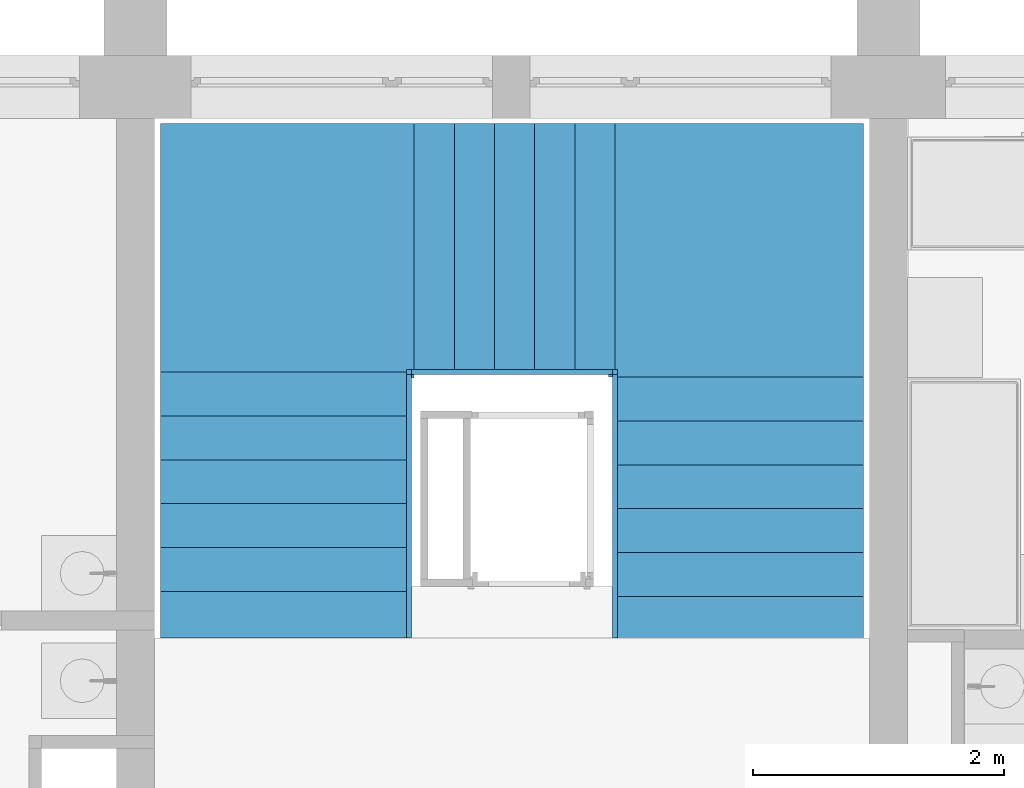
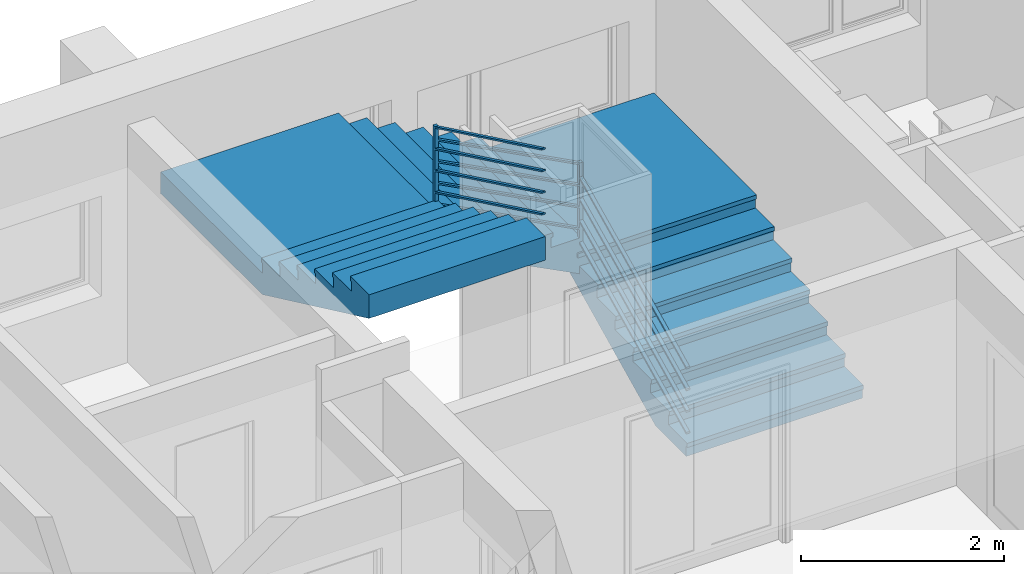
# One storey, part 26 of 165: 1 stair.
"""IFC2X3 building model written with IfcOpenShell, lengths in millimetres."""

import ifcopenshell
import ifcopenshell.guid

model = None  # the IFC model being written
_history = None  # IfcOwnerHistory: only IFC2X3 demands one
_inside = {}  # id of a spatial element -> (the spatial element, [elements in it])
_under = {}  # id of a project, library or spatial element -> (it, [spatial elements below it])
_declared = {}  # id of a project -> (the project, [libraries it declares])
_typed = {}  # id of a type object -> (the type object, [elements of that type])
_made_of = {}  # id of a material, layer set ... -> (it, [elements and type objects made of it])


def new_model(schema):
    """Start an empty IFC model of exactly this schema.

    Asked for "IFC4X3", IfcOpenShell would pick the latest addendum, in which some entities
    have other attributes; the version numbers below select the first issue.
    IFC2X3 requires an IfcOwnerHistory on every rooted entity: one is made here for all.
    """
    global model, _history
    if schema == "IFC4X3":
        model = ifcopenshell.file(schema_version=(4, 3, 0, 0))
    else:
        model = ifcopenshell.file(schema=schema)
    _inside.clear()
    _under.clear()
    _declared.clear()
    _typed.clear()
    _made_of.clear()
    _history = None
    if model.schema == "IFC2X3":
        org = make("IfcOrganization", Name="unknown")
        user = make(
            "IfcPersonAndOrganization",
            ThePerson=make("IfcPerson", FamilyName="unknown"),
            TheOrganization=org,
        )
        app = make(
            "IfcApplication",
            ApplicationDeveloper=org,
            Version="unknown",
            ApplicationFullName="unknown",
            ApplicationIdentifier="unknown",
        )
        _history = make(
            "IfcOwnerHistory",
            OwningUser=user,
            OwningApplication=app,
            ChangeAction="ADDED",
            CreationDate=0,
        )
    return model


def make(cls, **values):
    """One entity of the class cls with the attributes given. An attribute that is None is left unset."""
    return model.create_entity(
        cls, **{name: value for name, value in values.items() if value is not None}
    )


def entity(cls, *values):
    """Any entity or typed value of the class cls, its attributes in the order of the schema. None: left unset."""
    e = model.create_entity(cls)
    for i, value in enumerate(values):
        if value is not None:
            e[i] = value
    return e


def rooted(cls, **values):
    """An entity with a GlobalId (a new one), such as an element, a storey or a relation."""
    return make(cls, GlobalId=ifcopenshell.guid.new(), OwnerHistory=_history, **values)


def si_unit(unit_type, name, prefix=None):
    """IfcSIUnit, for example si_unit("LENGTHUNIT", "METRE", prefix="MILLI")."""
    return make("IfcSIUnit", UnitType=unit_type, Prefix=prefix, Name=name)


def converted_unit(unit_type, name, factor, base, dimensions=None, offset=None):
    """IfcConversionBasedUnit, such as the inch: factor (a typed value) times the base unit."""
    return make(
        "IfcConversionBasedUnit"
        if offset is None
        else "IfcConversionBasedUnitWithOffset",
        ConversionOffset=offset,
        Dimensions=None
        if dimensions is None
        else entity("IfcDimensionalExponents", *dimensions),
        UnitType=unit_type,
        Name=name,
        ConversionFactor=make(
            "IfcMeasureWithUnit", ValueComponent=factor, UnitComponent=base
        ),
    )


def money_unit(currency):
    """IfcMonetaryUnit."""
    return make("IfcMonetaryUnit", Currency=currency)


def assignment(units):
    """IfcUnitAssignment: the units of a project."""
    return None if units is None else make("IfcUnitAssignment", Units=units)


def point(xyz):
    """IfcCartesianPoint."""
    return None if xyz is None else make("IfcCartesianPoint", Coordinates=xyz)


def direction(xyz):
    """IfcDirection."""
    return None if xyz is None else make("IfcDirection", DirectionRatios=xyz)


def frame(location, z_axis=None, x_axis=None):
    """IfcAxis2Placement3D, a coordinate frame: its origin and axes. An axis left out is left unset."""
    return make(
        "IfcAxis2Placement3D",
        Location=point(location),
        Axis=direction(z_axis),
        RefDirection=direction(x_axis),
    )


def origin_with_axes():
    """The frame at (0, 0, 0) with the z axis (0, 0, 1) and the x axis (1, 0, 0) written out."""
    return frame((0.0, 0.0, 0.0), z_axis=(0.0, 0.0, 1.0), x_axis=(1.0, 0.0, 0.0))


def place(relative_to, where):
    """IfcLocalPlacement: puts the frame where relative to a parent placement (None: the world)."""
    return make(
        "IfcLocalPlacement", PlacementRelTo=relative_to, RelativePlacement=where
    )


def context(
    kind, dimensions, precision=None, world=None, true_north=None, identifier=None
):
    """IfcGeometricRepresentationContext, for example the 3D "Model" context."""
    return make(
        "IfcGeometricRepresentationContext",
        ContextIdentifier=identifier,
        ContextType=kind,
        CoordinateSpaceDimension=dimensions,
        Precision=precision,
        WorldCoordinateSystem=world,
        TrueNorth=true_north,
    )


def subcontext(parent, identifier, kind, view, scale=None):
    """IfcGeometricRepresentationSubContext, for example "Body" below "Model"."""
    return make(
        "IfcGeometricRepresentationSubContext",
        ContextIdentifier=identifier,
        ContextType=kind,
        ParentContext=parent,
        TargetScale=scale,
        TargetView=view,
    )


def project(units=None, contexts=None):
    """IfcProject with its units and contexts."""
    return rooted(
        "IfcProject",
        Name="project",
        RepresentationContexts=contexts,
        UnitsInContext=assignment(units),
    )


def spatial(cls, under=None, at=None, **own):
    """A site, building, storey or space (cls), placed at a placement, below another one or the project."""
    s = rooted(cls, ObjectPlacement=at, **own)
    if under is not None:
        _under.setdefault(under.id(), (under, []))[1].append(s)
    return s


def faces_of(points, faces, orient=None, outer=None):
    """IfcFace entities. A face is a list of loops; a loop is a list of indices into points, from 0.

    orient and outer hold one flag for each loop. By default every Orientation is true, the
    first loop of a face is its IfcFaceOuterBound and the others are IfcFaceBound.
    """
    made = []
    for i, loops in enumerate(faces):
        bounds = []
        for j, loop in enumerate(loops):
            is_outer = j == 0 if outer is None else outer[i][j]
            bounds.append(
                make(
                    "IfcFaceOuterBound" if is_outer else "IfcFaceBound",
                    Bound=make("IfcPolyLoop", Polygon=[points[k] for k in loop]),
                    Orientation=True if orient is None else orient[i][j],
                )
            )
        made.append(make("IfcFace", Bounds=bounds))
    return made


def faceted_brep(points, faces, orient=None, outer=None, voids=None):
    """IfcFacetedBrep: a solid bounded by flat faces; with voids (closed shells), ...WithVoids."""
    shared = [point(p) for p in points]
    hull = make("IfcClosedShell", CfsFaces=faces_of(shared, faces, orient, outer))
    if voids is None:
        return make("IfcFacetedBrep", Outer=hull)
    return make(
        "IfcFacetedBrepWithVoids",
        Outer=hull,
        Voids=[
            make(cls, CfsFaces=faces_of(shared, fs, o, b)) for cls, fs, o, b in voids
        ],
    )


def shape(context_of_items, identifier, shape_type, items):
    """IfcShapeRepresentation: the items that make up one representation, for example the "Body"."""
    return make(
        "IfcShapeRepresentation",
        ContextOfItems=context_of_items,
        RepresentationIdentifier=identifier,
        RepresentationType=shape_type,
        Items=items,
    )


def material(Name=None, Category=None):
    """IfcMaterial."""
    return make("IfcMaterial", Name=Name, Category=Category)


def made_of(thing, what):
    """Note that an element or type object is made of a material, layer set ...; save() writes the relation."""
    if what is not None:
        _made_of.setdefault(what.id(), (what, []))[1].append(thing)
    return thing


def element(
    cls,
    number,
    at=None,
    inside=None,
    cuts=None,
    type_object=None,
    material=None,
    context=None,
    identifier="Body",
    shape_type=None,
    held_by="IfcProductDefinitionShape",
    body=None,
    shapes=None,
    **own,
):
    """One element of the class cls, such as IfcWall. Its Tag is "e" and its number.

    at: its placement. inside: the storey or other place that contains it. cuts: it is an
    opening in that element (IfcRelVoidsElement). A single representation is given by context,
    identifier, shape_type and body (its items); several are given by shapes. held_by: the class
    of the entity that holds the representations. save() writes the other relations.
    """
    e = rooted(cls, Tag="e%d" % number, ObjectPlacement=at, **own)
    if body is not None:
        shapes = [shape(context, identifier, shape_type, body)]
    if shapes is not None:
        e.Representation = make(held_by, Representations=shapes)
    if inside is not None:
        _inside.setdefault(inside.id(), (inside, []))[1].append(e)
    if cuts is not None:
        rooted(
            "IfcRelVoidsElement", RelatingBuildingElement=cuts, RelatedOpeningElement=e
        )
    if type_object is not None:
        _typed.setdefault(type_object.id(), (type_object, []))[1].append(e)
    return made_of(e, material)


def aggregate(whole, parts):
    """IfcRelAggregates: a whole, such as a stair, and the parts it consists of."""
    return rooted("IfcRelAggregates", RelatingObject=whole, RelatedObjects=parts)


def save(model, path):
    """Write the relations noted so far, then the file.

    IfcRelAggregates (storeys below a building ...), IfcRelContainedInSpatialStructure (elements
    in a storey), IfcRelDefinesByType, IfcRelAssociatesMaterial and IfcRelDeclares: one each for
    every whole, place, type object, material and project.
    """
    for whole, parts in _under.values():
        aggregate(whole, parts)
    for where, things in _inside.values():
        rooted(
            "IfcRelContainedInSpatialStructure",
            RelatedElements=things,
            RelatingStructure=where,
        )
    for kind, things in _typed.values():
        rooted("IfcRelDefinesByType", RelatedObjects=things, RelatingType=kind)
    for what, things in _made_of.values():
        rooted("IfcRelAssociatesMaterial", RelatedObjects=things, RelatingMaterial=what)
    for by, libraries in _declared.values():
        rooted("IfcRelDeclares", RelatingContext=by, RelatedDefinitions=libraries)
    model.write(path)


model = new_model("IFC2X3")

# Units and contexts
model_context = context("Model", 3, precision=1e-05, world=origin_with_axes(), true_north=direction((0.0, 1.0)))
body_context = subcontext(model_context, "Body", "Model", "MODEL_VIEW")
ifc_project = project(units=[si_unit("LENGTHUNIT", "METRE", prefix="MILLI"), si_unit("AREAUNIT", "SQUARE_METRE"), si_unit("VOLUMEUNIT", "CUBIC_METRE"), converted_unit("PLANEANGLEUNIT", "DEGREE", entity("IfcPlaneAngleMeasure", 0.0174532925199), si_unit("PLANEANGLEUNIT", "RADIAN"), dimensions=[0, 0, 0, 0, 0, 0, 0]), si_unit("SOLIDANGLEUNIT", "STERADIAN"), money_unit("USD"), converted_unit("TIMEUNIT", "Year", entity("IfcTimeMeasure", 31556926.0), si_unit("TIMEUNIT", "SECOND"), dimensions=[0, 0, 0, 0, 0, 0, 0]), si_unit("MASSUNIT", "GRAM"), si_unit("THERMODYNAMICTEMPERATUREUNIT", "DEGREE_CELSIUS"), si_unit("LUMINOUSINTENSITYUNIT", "LUMEN")], contexts=[model_context])

# Site, building, storey
site_placement = place(None, origin_with_axes())
site = spatial("IfcSite", under=ifc_project, at=site_placement, Name="Site", CompositionType="ELEMENT")
building_placement = place(site_placement, origin_with_axes())
building = spatial("IfcBuilding", under=site, at=building_placement, Name="Building", CompositionType="ELEMENT")
storey_placement = place(building_placement, frame((0.0, 0.0, 6300.0), z_axis=(0.0, 0.0, 1.0), x_axis=(1.0, 0.0, 0.0)))
storey = spatial("IfcBuildingStorey", under=building, at=storey_placement, Name="4KORRUS", CompositionType="ELEMENT", Elevation=6300.0)

# Stair
ifc_material = material(Name="25 %")
stair_placement = place(storey_placement, frame((-6340.29670331, -9280.64352695, 0.0), z_axis=(0.0, 0.0, 1.0), x_axis=(1.0, 0.0, 0.0)))
element("IfcStair", 1, at=stair_placement, inside=storey, material=ifc_material, Name="TRE3", ObjectType="TRE3", ShapeType="NOTDEFINED", context=body_context, shape_type="Brep", body=[
    faceted_brep([(0.0, 599.615, 0.0), (-2000.0, 599.615, 0.0), (-2000.0, 2497.898, 918.947), (0.0, 2497.898, 918.947), (0.0, 30.0, 0.0), (-2000.0, 30.0, 0.0), (-2000.0, 30.0, 118.421), (-2000.0, 380.0, 118.421), (-2000.0, 380.0, 286.842), (-2000.0, 730.0, 286.842), (-2000.0, 730.0, 455.263), (-2000.0, 1080.0, 455.263), (-2000.0, 1080.0, 623.684), (-2000.0, 1430.0, 623.684), (-2000.0, 1430.0, 792.105), (-2000.0, 1780.0, 792.105), (-2000.0, 1780.0, 960.526), (-2000.0, 2130.0, 960.526), (-2000.0, 2130.0, 918.947), (0.0, 2130.0, 918.947), (0.0, 2130.0, 960.526), (0.0, 1780.0, 960.526), (0.0, 1780.0, 792.105), (0.0, 1430.0, 792.105), (0.0, 1430.0, 623.684), (0.0, 1080.0, 623.684), (0.0, 1080.0, 455.263), (0.0, 730.0, 455.263), (0.0, 730.0, 286.842), (0.0, 380.0, 286.842), (0.0, 380.0, 118.421), (0.0, 30.0, 118.421)], [[[0, 1, 2, 3]], [[4, 5, 1, 0]], [[1, 5, 6, 7, 8, 9, 10, 11, 12, 13, 14, 15, 16, 17, 18, 2]], [[3, 2, 18, 19]], [[0, 3, 19, 20, 21, 22, 23, 24, 25, 26, 27, 28, 29, 30, 31, 4]], [[31, 6, 5, 4]], [[30, 7, 6, 31]], [[29, 8, 7, 30]], [[28, 9, 8, 29]], [[27, 10, 9, 28]], [[26, 11, 10, 27]], [[25, 12, 11, 26]], [[24, 13, 12, 25]], [[23, 14, 13, 24]], [[22, 15, 14, 23]], [[21, 16, 15, 22]], [[20, 17, 16, 21]], [[19, 18, 17, 20]]]),
    faceted_brep([(0.0, 0.0, 0.0), (-2000.0, 0.0, 0.0), (-2000.0, 30.0, 0.0), (0.0, 30.0, 0.0), (0.0, 0.0, 118.421), (-2000.0, 0.0, 118.421), (-2000.0, 30.0, 118.421), (0.0, 30.0, 118.421)], [[[0, 1, 2, 3]], [[4, 5, 1, 0]], [[1, 5, 6, 2]], [[3, 2, 6, 7]], [[0, 3, 7, 4]], [[7, 6, 5, 4]]]),
    faceted_brep([(0.0, 350.0, 168.421), (-2000.0, 350.0, 168.421), (-2000.0, 380.0, 168.421), (0.0, 380.0, 168.421), (0.0, 350.0, 286.842), (-2000.0, 350.0, 286.842), (-2000.0, 380.0, 286.842), (0.0, 380.0, 286.842)], [[[0, 1, 2, 3]], [[4, 5, 1, 0]], [[1, 5, 6, 2]], [[3, 2, 6, 7]], [[0, 3, 7, 4]], [[7, 6, 5, 4]]]),
    faceted_brep([(0.0, 700.0, 336.842), (-2000.0, 700.0, 336.842), (-2000.0, 730.0, 336.842), (0.0, 730.0, 336.842), (0.0, 700.0, 455.263), (-2000.0, 700.0, 455.263), (-2000.0, 730.0, 455.263), (0.0, 730.0, 455.263)], [[[0, 1, 2, 3]], [[4, 5, 1, 0]], [[1, 5, 6, 2]], [[3, 2, 6, 7]], [[0, 3, 7, 4]], [[7, 6, 5, 4]]]),
    faceted_brep([(0.0, 1050.0, 505.263), (-2000.0, 1050.0, 505.263), (-2000.0, 1080.0, 505.263), (0.0, 1080.0, 505.263), (0.0, 1050.0, 623.684), (-2000.0, 1050.0, 623.684), (-2000.0, 1080.0, 623.684), (0.0, 1080.0, 623.684)], [[[0, 1, 2, 3]], [[4, 5, 1, 0]], [[1, 5, 6, 2]], [[3, 2, 6, 7]], [[0, 3, 7, 4]], [[7, 6, 5, 4]]]),
    faceted_brep([(0.0, 1400.0, 673.684), (-2000.0, 1400.0, 673.684), (-2000.0, 1430.0, 673.684), (0.0, 1430.0, 673.684), (0.0, 1400.0, 792.105), (-2000.0, 1400.0, 792.105), (-2000.0, 1430.0, 792.105), (0.0, 1430.0, 792.105)], [[[0, 1, 2, 3]], [[4, 5, 1, 0]], [[1, 5, 6, 2]], [[3, 2, 6, 7]], [[0, 3, 7, 4]], [[7, 6, 5, 4]]]),
    faceted_brep([(0.0, 1750.0, 842.105), (-2000.0, 1750.0, 842.105), (-2000.0, 1780.0, 842.105), (0.0, 1780.0, 842.105), (0.0, 1750.0, 960.526), (-2000.0, 1750.0, 960.526), (-2000.0, 1780.0, 960.526), (0.0, 1780.0, 960.526)], [[[0, 1, 2, 3]], [[4, 5, 1, 0]], [[1, 5, 6, 2]], [[3, 2, 6, 7]], [[0, 3, 7, 4]], [[7, 6, 5, 4]]]),
    faceted_brep([(0.0, 2100.0, 1010.526), (-2000.0, 2100.0, 1010.526), (-2000.0, 2130.0, 1010.526), (0.0, 2130.0, 1010.526), (0.0, 2100.0, 1128.947), (-2000.0, 2100.0, 1128.947), (-2000.0, 2130.0, 1128.947), (0.0, 2130.0, 1128.947)], [[[0, 1, 2, 3]], [[4, 5, 1, 0]], [[1, 5, 6, 2]], [[3, 2, 6, 7]], [[0, 3, 7, 4]], [[7, 6, 5, 4]]]),
    faceted_brep([(0.0, 2130.0, 918.947), (0.0, 2130.0, 960.526), (-2000.0, 2130.0, 960.526), (-2000.0, 2130.0, 918.947), (0.0, 2497.898, 918.947), (0.0, 2497.898, 960.526), (0.0, 4100.0, 960.526), (-2000.0, 4100.0, 960.526), (-2000.0, 2497.898, 960.526), (-2000.0, 2497.898, 918.947), (-2000.0, 4100.0, 918.947), (0.0, 4100.0, 918.947)], [[[0, 1, 2, 3]], [[4, 5, 1, 0]], [[1, 5, 6, 7, 8, 2]], [[3, 2, 8, 9]], [[0, 3, 9, 10, 11, 4]], [[11, 6, 5, 4]], [[10, 7, 6, 11]], [[9, 8, 7, 10]]]),
    faceted_brep([(0.0, 2130.0, 960.526), (0.0, 2130.0, 1128.947), (-2000.0, 2130.0, 1128.947), (-2000.0, 2130.0, 960.526), (0.0, 4100.0, 960.526), (0.0, 4100.0, 1128.947), (-2000.0, 4100.0, 1128.947), (-2000.0, 4100.0, 960.526)], [[[0, 1, 2, 3]], [[4, 5, 1, 0]], [[1, 5, 6, 2]], [[3, 2, 6, 7]], [[0, 3, 7, 4]], [[7, 6, 5, 4]]]),
    faceted_brep([(-3967.898, 4100.0, 1929.474), (-3967.898, 2100.0, 1929.474), (-3630.0, 2100.0, 1929.474), (-3630.0, 4100.0, 1929.474), (-2000.0, 4100.0, 918.947), (-2000.0, 2100.0, 918.947), (-2000.0, 2100.0, 1128.947), (-2030.0, 2100.0, 1128.947), (-2030.0, 2100.0, 1297.368), (-2350.0, 2100.0, 1297.368), (-2350.0, 2100.0, 1465.789), (-2670.0, 2100.0, 1465.789), (-2670.0, 2100.0, 1634.211), (-2990.0, 2100.0, 1634.211), (-2990.0, 2100.0, 1802.632), (-3310.0, 2100.0, 1802.632), (-3310.0, 2100.0, 1971.053), (-3630.0, 2100.0, 1971.053), (-3630.0, 4100.0, 1971.053), (-3310.0, 4100.0, 1971.053), (-3310.0, 4100.0, 1802.632), (-2990.0, 4100.0, 1802.632), (-2990.0, 4100.0, 1634.211), (-2670.0, 4100.0, 1634.211), (-2670.0, 4100.0, 1465.789), (-2350.0, 4100.0, 1465.789), (-2350.0, 4100.0, 1297.368), (-2030.0, 4100.0, 1297.368), (-2030.0, 4100.0, 1128.947), (-2000.0, 4100.0, 1128.947)], [[[0, 1, 2, 3]], [[4, 5, 1, 0]], [[1, 5, 6, 7, 8, 9, 10, 11, 12, 13, 14, 15, 16, 17, 2]], [[3, 2, 17, 18]], [[0, 3, 18, 19, 20, 21, 22, 23, 24, 25, 26, 27, 28, 29, 4]], [[29, 6, 5, 4]], [[28, 7, 6, 29]], [[27, 8, 7, 28]], [[26, 9, 8, 27]], [[25, 10, 9, 26]], [[24, 11, 10, 25]], [[23, 12, 11, 24]], [[22, 13, 12, 23]], [[21, 14, 13, 22]], [[20, 15, 14, 21]], [[19, 16, 15, 20]], [[18, 17, 16, 19]]]),
    faceted_brep([(-2000.0, 4100.0, 1178.947), (-2000.0, 2100.0, 1178.947), (-2030.0, 2100.0, 1178.947), (-2030.0, 4100.0, 1178.947), (-2000.0, 4100.0, 1297.368), (-2000.0, 2100.0, 1297.368), (-2030.0, 2100.0, 1297.368), (-2030.0, 4100.0, 1297.368)], [[[0, 1, 2, 3]], [[4, 5, 1, 0]], [[1, 5, 6, 2]], [[3, 2, 6, 7]], [[0, 3, 7, 4]], [[7, 6, 5, 4]]]),
    faceted_brep([(-2320.0, 4100.0, 1347.368), (-2320.0, 2100.0, 1347.368), (-2350.0, 2100.0, 1347.368), (-2350.0, 4100.0, 1347.368), (-2320.0, 4100.0, 1465.789), (-2320.0, 2100.0, 1465.789), (-2350.0, 2100.0, 1465.789), (-2350.0, 4100.0, 1465.789)], [[[0, 1, 2, 3]], [[4, 5, 1, 0]], [[1, 5, 6, 2]], [[3, 2, 6, 7]], [[0, 3, 7, 4]], [[7, 6, 5, 4]]]),
    faceted_brep([(-2640.0, 4100.0, 1515.789), (-2640.0, 2100.0, 1515.789), (-2670.0, 2100.0, 1515.789), (-2670.0, 4100.0, 1515.789), (-2640.0, 4100.0, 1634.211), (-2640.0, 2100.0, 1634.211), (-2670.0, 2100.0, 1634.211), (-2670.0, 4100.0, 1634.211)], [[[0, 1, 2, 3]], [[4, 5, 1, 0]], [[1, 5, 6, 2]], [[3, 2, 6, 7]], [[0, 3, 7, 4]], [[7, 6, 5, 4]]]),
    faceted_brep([(-2960.0, 4100.0, 1684.211), (-2960.0, 2100.0, 1684.211), (-2990.0, 2100.0, 1684.211), (-2990.0, 4100.0, 1684.211), (-2960.0, 4100.0, 1802.632), (-2960.0, 2100.0, 1802.632), (-2990.0, 2100.0, 1802.632), (-2990.0, 4100.0, 1802.632)], [[[0, 1, 2, 3]], [[4, 5, 1, 0]], [[1, 5, 6, 2]], [[3, 2, 6, 7]], [[0, 3, 7, 4]], [[7, 6, 5, 4]]]),
    faceted_brep([(-3280.0, 4100.0, 1852.632), (-3280.0, 2100.0, 1852.632), (-3310.0, 2100.0, 1852.632), (-3310.0, 4100.0, 1852.632), (-3280.0, 4100.0, 1971.053), (-3280.0, 2100.0, 1971.053), (-3310.0, 2100.0, 1971.053), (-3310.0, 4100.0, 1971.053)], [[[0, 1, 2, 3]], [[4, 5, 1, 0]], [[1, 5, 6, 2]], [[3, 2, 6, 7]], [[0, 3, 7, 4]], [[7, 6, 5, 4]]]),
    faceted_brep([(-3600.0, 4100.0, 2021.053), (-3600.0, 2100.0, 2021.053), (-3630.0, 2100.0, 2021.053), (-3630.0, 4100.0, 2021.053), (-3600.0, 4100.0, 2139.474), (-3600.0, 2100.0, 2139.474), (-3630.0, 2100.0, 2139.474), (-3630.0, 4100.0, 2139.474)], [[[0, 1, 2, 3]], [[4, 5, 1, 0]], [[1, 5, 6, 2]], [[3, 2, 6, 7]], [[0, 3, 7, 4]], [[7, 6, 5, 4]]]),
    faceted_brep([(-3630.0, 4100.0, 1929.474), (-3630.0, 4100.0, 1971.053), (-3630.0, 2100.0, 1971.053), (-3630.0, 2100.0, 1929.474), (-3950.0, 4100.0, 1929.474), (-3950.0, 4100.0, 1971.053), (-5600.0, 4100.0, 1971.053), (-5600.0, 2100.0, 1971.053), (-3950.0, 2100.0, 1971.053), (-3950.0, 2100.0, 1929.474), (-5600.0, 2100.0, 1929.474), (-5600.0, 4100.0, 1929.474)], [[[0, 1, 2, 3]], [[4, 5, 1, 0]], [[1, 5, 6, 7, 8, 2]], [[3, 2, 8, 9]], [[0, 3, 9, 10, 11, 4]], [[11, 6, 5, 4]], [[10, 7, 6, 11]], [[9, 8, 7, 10]]]),
    faceted_brep([(-3630.0, 4100.0, 1971.053), (-3630.0, 4100.0, 2139.474), (-3630.0, 2100.0, 2139.474), (-3630.0, 2100.0, 1971.053), (-5600.0, 4100.0, 1971.053), (-5600.0, 4100.0, 2139.474), (-5600.0, 2100.0, 2139.474), (-5600.0, 2100.0, 1971.053)], [[[0, 1, 2, 3]], [[4, 5, 1, 0]], [[1, 5, 6, 2]], [[3, 2, 6, 7]], [[0, 3, 7, 4]], [[7, 6, 5, 4]]]),
    faceted_brep([(-5600.0, 0.0, 2916.951), (-3600.0, 0.0, 2916.951), (-3600.0, 0.0, 3150.0), (-5600.0, 0.0, 3150.0), (-5600.0, 2100.0, 1929.474), (-3600.0, 2100.0, 1929.474), (-3600.0, 2100.0, 2139.474), (-3600.0, 2070.0, 2139.474), (-3600.0, 2070.0, 2307.895), (-3600.0, 1720.0, 2307.895), (-3600.0, 1720.0, 2476.316), (-3600.0, 1370.0, 2476.316), (-3600.0, 1370.0, 2644.737), (-3600.0, 1020.0, 2644.737), (-3600.0, 1020.0, 2813.158), (-3600.0, 670.0, 2813.158), (-3600.0, 670.0, 2981.579), (-3600.0, 320.0, 2981.579), (-3600.0, 320.0, 3150.0), (-5600.0, 320.0, 3150.0), (-5600.0, 320.0, 2981.579), (-5600.0, 670.0, 2981.579), (-5600.0, 670.0, 2813.158), (-5600.0, 1020.0, 2813.158), (-5600.0, 1020.0, 2644.737), (-5600.0, 1370.0, 2644.737), (-5600.0, 1370.0, 2476.316), (-5600.0, 1720.0, 2476.316), (-5600.0, 1720.0, 2307.895), (-5600.0, 2070.0, 2307.895), (-5600.0, 2070.0, 2139.474), (-5600.0, 2100.0, 2139.474)], [[[0, 1, 2, 3]], [[4, 5, 1, 0]], [[1, 5, 6, 7, 8, 9, 10, 11, 12, 13, 14, 15, 16, 17, 18, 2]], [[3, 2, 18, 19]], [[0, 3, 19, 20, 21, 22, 23, 24, 25, 26, 27, 28, 29, 30, 31, 4]], [[31, 6, 5, 4]], [[30, 7, 6, 31]], [[29, 8, 7, 30]], [[28, 9, 8, 29]], [[27, 10, 9, 28]], [[26, 11, 10, 27]], [[25, 12, 11, 26]], [[24, 13, 12, 25]], [[23, 14, 13, 24]], [[22, 15, 14, 23]], [[21, 16, 15, 22]], [[20, 17, 16, 21]], [[19, 18, 17, 20]]]),
    faceted_brep([(-5600.0, 2100.0, 2189.474), (-3600.0, 2100.0, 2189.474), (-3600.0, 2070.0, 2189.474), (-5600.0, 2070.0, 2189.474), (-5600.0, 2100.0, 2307.895), (-3600.0, 2100.0, 2307.895), (-3600.0, 2070.0, 2307.895), (-5600.0, 2070.0, 2307.895)], [[[0, 1, 2, 3]], [[4, 5, 1, 0]], [[1, 5, 6, 2]], [[3, 2, 6, 7]], [[0, 3, 7, 4]], [[7, 6, 5, 4]]]),
    faceted_brep([(-5600.0, 1750.0, 2357.895), (-3600.0, 1750.0, 2357.895), (-3600.0, 1720.0, 2357.895), (-5600.0, 1720.0, 2357.895), (-5600.0, 1750.0, 2476.316), (-3600.0, 1750.0, 2476.316), (-3600.0, 1720.0, 2476.316), (-5600.0, 1720.0, 2476.316)], [[[0, 1, 2, 3]], [[4, 5, 1, 0]], [[1, 5, 6, 2]], [[3, 2, 6, 7]], [[0, 3, 7, 4]], [[7, 6, 5, 4]]]),
    faceted_brep([(-5600.0, 1400.0, 2526.316), (-3600.0, 1400.0, 2526.316), (-3600.0, 1370.0, 2526.316), (-5600.0, 1370.0, 2526.316), (-5600.0, 1400.0, 2644.737), (-3600.0, 1400.0, 2644.737), (-3600.0, 1370.0, 2644.737), (-5600.0, 1370.0, 2644.737)], [[[0, 1, 2, 3]], [[4, 5, 1, 0]], [[1, 5, 6, 2]], [[3, 2, 6, 7]], [[0, 3, 7, 4]], [[7, 6, 5, 4]]]),
    faceted_brep([(-5600.0, 1050.0, 2694.737), (-3600.0, 1050.0, 2694.737), (-3600.0, 1020.0, 2694.737), (-5600.0, 1020.0, 2694.737), (-5600.0, 1050.0, 2813.158), (-3600.0, 1050.0, 2813.158), (-3600.0, 1020.0, 2813.158), (-5600.0, 1020.0, 2813.158)], [[[0, 1, 2, 3]], [[4, 5, 1, 0]], [[1, 5, 6, 2]], [[3, 2, 6, 7]], [[0, 3, 7, 4]], [[7, 6, 5, 4]]]),
    faceted_brep([(-5600.0, 700.0, 2863.158), (-3600.0, 700.0, 2863.158), (-3600.0, 670.0, 2863.158), (-5600.0, 670.0, 2863.158), (-5600.0, 700.0, 2981.579), (-3600.0, 700.0, 2981.579), (-3600.0, 670.0, 2981.579), (-5600.0, 670.0, 2981.579)], [[[0, 1, 2, 3]], [[4, 5, 1, 0]], [[1, 5, 6, 2]], [[3, 2, 6, 7]], [[0, 3, 7, 4]], [[7, 6, 5, 4]]]),
    faceted_brep([(-5600.0, 350.0, 3031.579), (-3600.0, 350.0, 3031.579), (-3600.0, 320.0, 3031.579), (-5600.0, 320.0, 3031.579), (-5600.0, 350.0, 3150.0), (-3600.0, 350.0, 3150.0), (-3600.0, 320.0, 3150.0), (-5600.0, 320.0, 3150.0)], [[[0, 1, 2, 3]], [[4, 5, 1, 0]], [[1, 5, 6, 2]], [[3, 2, 6, 7]], [[0, 3, 7, 4]], [[7, 6, 5, 4]]]),
    faceted_brep([(-2000.0, -20.0, 118.421), (-2000.0, 380.0, 118.421), (0.0, 380.0, 118.421), (0.0, -20.0, 118.421), (-2000.0, -20.0, 168.421), (-2000.0, 380.0, 168.421), (0.0, 380.0, 168.421), (0.0, -20.0, 168.421)], [[[0, 1, 2, 3]], [[0, 4, 5, 1]], [[1, 5, 6, 2]], [[2, 6, 7, 3]], [[3, 7, 4, 0]], [[7, 6, 5, 4]]]),
    faceted_brep([(-2000.0, 330.0, 286.842), (-2000.0, 730.0, 286.842), (0.0, 730.0, 286.842), (0.0, 330.0, 286.842), (-2000.0, 330.0, 336.842), (-2000.0, 730.0, 336.842), (0.0, 730.0, 336.842), (0.0, 330.0, 336.842)], [[[0, 1, 2, 3]], [[0, 4, 5, 1]], [[1, 5, 6, 2]], [[2, 6, 7, 3]], [[3, 7, 4, 0]], [[7, 6, 5, 4]]]),
    faceted_brep([(-2000.0, 680.0, 455.263), (-2000.0, 1080.0, 455.263), (0.0, 1080.0, 455.263), (0.0, 680.0, 455.263), (-2000.0, 680.0, 505.263), (-2000.0, 1080.0, 505.263), (0.0, 1080.0, 505.263), (0.0, 680.0, 505.263)], [[[0, 1, 2, 3]], [[0, 4, 5, 1]], [[1, 5, 6, 2]], [[2, 6, 7, 3]], [[3, 7, 4, 0]], [[7, 6, 5, 4]]]),
    faceted_brep([(-2000.0, 1030.0, 623.684), (-2000.0, 1430.0, 623.684), (0.0, 1430.0, 623.684), (0.0, 1030.0, 623.684), (-2000.0, 1030.0, 673.684), (-2000.0, 1430.0, 673.684), (0.0, 1430.0, 673.684), (0.0, 1030.0, 673.684)], [[[0, 1, 2, 3]], [[0, 4, 5, 1]], [[1, 5, 6, 2]], [[2, 6, 7, 3]], [[3, 7, 4, 0]], [[7, 6, 5, 4]]]),
    faceted_brep([(-2000.0, 1380.0, 792.105), (-2000.0, 1780.0, 792.105), (0.0, 1780.0, 792.105), (0.0, 1380.0, 792.105), (-2000.0, 1380.0, 842.105), (-2000.0, 1780.0, 842.105), (0.0, 1780.0, 842.105), (0.0, 1380.0, 842.105)], [[[0, 1, 2, 3]], [[0, 4, 5, 1]], [[1, 5, 6, 2]], [[2, 6, 7, 3]], [[3, 7, 4, 0]], [[7, 6, 5, 4]]]),
    faceted_brep([(-2000.0, 1730.0, 960.526), (-2000.0, 2130.0, 960.526), (0.0, 2130.0, 960.526), (0.0, 1730.0, 960.526), (-2000.0, 1730.0, 1010.526), (-2000.0, 2130.0, 1010.526), (0.0, 2130.0, 1010.526), (0.0, 1730.0, 1010.526)], [[[0, 1, 2, 3]], [[0, 4, 5, 1]], [[1, 5, 6, 2]], [[2, 6, 7, 3]], [[3, 7, 4, 0]], [[7, 6, 5, 4]]]),
    faceted_brep([(-2030.0, 2080.0, 1128.947), (-2030.0, 4100.0, 1128.947), (0.0, 4100.0, 1128.947), (0.0, 2080.0, 1128.947), (-2030.0, 2080.0, 1178.947), (-2030.0, 4100.0, 1178.947), (0.0, 4100.0, 1178.947), (0.0, 2080.0, 1178.947)], [[[0, 1, 2, 3]], [[0, 4, 5, 1]], [[1, 5, 6, 2]], [[2, 6, 7, 3]], [[3, 7, 4, 0]], [[7, 6, 5, 4]]]),
    faceted_brep([(-1980.0, 2100.0, 1297.368), (-2350.0, 2100.0, 1297.368), (-2350.0, 4100.0, 1297.368), (-1980.0, 4100.0, 1297.368), (-1980.0, 2100.0, 1347.368), (-2350.0, 2100.0, 1347.368), (-2350.0, 4100.0, 1347.368), (-1980.0, 4100.0, 1347.368)], [[[0, 1, 2, 3]], [[0, 4, 5, 1]], [[1, 5, 6, 2]], [[2, 6, 7, 3]], [[3, 7, 4, 0]], [[7, 6, 5, 4]]]),
    faceted_brep([(-2300.0, 2100.0, 1465.789), (-2670.0, 2100.0, 1465.789), (-2670.0, 4100.0, 1465.789), (-2300.0, 4100.0, 1465.789), (-2300.0, 2100.0, 1515.789), (-2670.0, 2100.0, 1515.789), (-2670.0, 4100.0, 1515.789), (-2300.0, 4100.0, 1515.789)], [[[0, 1, 2, 3]], [[0, 4, 5, 1]], [[1, 5, 6, 2]], [[2, 6, 7, 3]], [[3, 7, 4, 0]], [[7, 6, 5, 4]]]),
    faceted_brep([(-2620.0, 2100.0, 1634.211), (-2990.0, 2100.0, 1634.211), (-2990.0, 4100.0, 1634.211), (-2620.0, 4100.0, 1634.211), (-2620.0, 2100.0, 1684.211), (-2990.0, 2100.0, 1684.211), (-2990.0, 4100.0, 1684.211), (-2620.0, 4100.0, 1684.211)], [[[0, 1, 2, 3]], [[0, 4, 5, 1]], [[1, 5, 6, 2]], [[2, 6, 7, 3]], [[3, 7, 4, 0]], [[7, 6, 5, 4]]]),
    faceted_brep([(-2940.0, 2100.0, 1802.632), (-3310.0, 2100.0, 1802.632), (-3310.0, 4100.0, 1802.632), (-2940.0, 4100.0, 1802.632), (-2940.0, 2100.0, 1852.632), (-3310.0, 2100.0, 1852.632), (-3310.0, 4100.0, 1852.632), (-2940.0, 4100.0, 1852.632)], [[[0, 1, 2, 3]], [[0, 4, 5, 1]], [[1, 5, 6, 2]], [[2, 6, 7, 3]], [[3, 7, 4, 0]], [[7, 6, 5, 4]]]),
    faceted_brep([(-3260.0, 2100.0, 1971.053), (-3630.0, 2100.0, 1971.053), (-3630.0, 4100.0, 1971.053), (-3260.0, 4100.0, 1971.053), (-3260.0, 2100.0, 2021.053), (-3630.0, 2100.0, 2021.053), (-3630.0, 4100.0, 2021.053), (-3260.0, 4100.0, 2021.053)], [[[0, 1, 2, 3]], [[0, 4, 5, 1]], [[1, 5, 6, 2]], [[2, 6, 7, 3]], [[3, 7, 4, 0]], [[7, 6, 5, 4]]]),
    faceted_brep([(-5600.0, 2070.0, 2139.474), (-5600.0, 4100.0, 2139.474), (-3580.0, 4100.0, 2139.474), (-3580.0, 2070.0, 2139.474), (-5600.0, 2070.0, 2189.474), (-5600.0, 4100.0, 2189.474), (-3580.0, 4100.0, 2189.474), (-3580.0, 2070.0, 2189.474)], [[[0, 1, 2, 3]], [[0, 4, 5, 1]], [[1, 5, 6, 2]], [[2, 6, 7, 3]], [[3, 7, 4, 0]], [[7, 6, 5, 4]]]),
    faceted_brep([(-3600.0, 2120.0, 2307.895), (-3600.0, 1720.0, 2307.895), (-5600.0, 1720.0, 2307.895), (-5600.0, 2120.0, 2307.895), (-3600.0, 2120.0, 2357.895), (-3600.0, 1720.0, 2357.895), (-5600.0, 1720.0, 2357.895), (-5600.0, 2120.0, 2357.895)], [[[0, 1, 2, 3]], [[0, 4, 5, 1]], [[1, 5, 6, 2]], [[2, 6, 7, 3]], [[3, 7, 4, 0]], [[7, 6, 5, 4]]]),
    faceted_brep([(-3600.0, 1770.0, 2476.316), (-3600.0, 1370.0, 2476.316), (-5600.0, 1370.0, 2476.316), (-5600.0, 1770.0, 2476.316), (-3600.0, 1770.0, 2526.316), (-3600.0, 1370.0, 2526.316), (-5600.0, 1370.0, 2526.316), (-5600.0, 1770.0, 2526.316)], [[[0, 1, 2, 3]], [[0, 4, 5, 1]], [[1, 5, 6, 2]], [[2, 6, 7, 3]], [[3, 7, 4, 0]], [[7, 6, 5, 4]]]),
    faceted_brep([(-3600.0, 1420.0, 2644.737), (-3600.0, 1020.0, 2644.737), (-5600.0, 1020.0, 2644.737), (-5600.0, 1420.0, 2644.737), (-3600.0, 1420.0, 2694.737), (-3600.0, 1020.0, 2694.737), (-5600.0, 1020.0, 2694.737), (-5600.0, 1420.0, 2694.737)], [[[0, 1, 2, 3]], [[0, 4, 5, 1]], [[1, 5, 6, 2]], [[2, 6, 7, 3]], [[3, 7, 4, 0]], [[7, 6, 5, 4]]]),
    faceted_brep([(-3600.0, 1070.0, 2813.158), (-3600.0, 670.0, 2813.158), (-5600.0, 670.0, 2813.158), (-5600.0, 1070.0, 2813.158), (-3600.0, 1070.0, 2863.158), (-3600.0, 670.0, 2863.158), (-5600.0, 670.0, 2863.158), (-5600.0, 1070.0, 2863.158)], [[[0, 1, 2, 3]], [[0, 4, 5, 1]], [[1, 5, 6, 2]], [[2, 6, 7, 3]], [[3, 7, 4, 0]], [[7, 6, 5, 4]]]),
    faceted_brep([(-3600.0, 720.0, 2981.579), (-3600.0, 320.0, 2981.579), (-5600.0, 320.0, 2981.579), (-5600.0, 720.0, 2981.579), (-3600.0, 720.0, 3031.579), (-3600.0, 320.0, 3031.579), (-5600.0, 320.0, 3031.579), (-5600.0, 720.0, 3031.579)], [[[0, 1, 2, 3]], [[0, 4, 5, 1]], [[1, 5, 6, 2]], [[2, 6, 7, 3]], [[3, 7, 4, 0]], [[7, 6, 5, 4]]]),
    faceted_brep([(-3600.0, 370.0, 3150.0), (-3600.0, 0.0, 3150.0), (-5600.0, 0.0, 3150.0), (-5600.0, 370.0, 3150.0), (-3600.0, 370.0, 3200.0), (-3600.0, 0.0, 3200.0), (-5600.0, 0.0, 3200.0), (-5600.0, 370.0, 3200.0)], [[[0, 1, 2, 3]], [[0, 4, 5, 1]], [[1, 5, 6, 2]], [[2, 6, 7, 3]], [[3, 7, 4, 0]], [[7, 6, 5, 4]]]),
    faceted_brep([(-1960.0, 0.0, 268.421), (-2000.0, 0.0, 268.421), (-2000.0, 2100.0, 1278.947), (-1960.0, 2100.0, 1278.947), (-1960.0, 0.0, 288.421), (-2000.0, 0.0, 288.421), (-2000.0, 2100.0, 1298.947), (-1960.0, 2100.0, 1298.947)], [[[0, 1, 2, 3]], [[4, 5, 1, 0]], [[1, 5, 6, 2]], [[3, 2, 6, 7]], [[0, 3, 7, 4]], [[7, 6, 5, 4]]]),
    faceted_brep([(-1960.0, 0.0, 528.421), (-2000.0, 0.0, 528.421), (-2000.0, 2100.0, 1538.947), (-1960.0, 2100.0, 1538.947), (-1960.0, 0.0, 548.421), (-2000.0, 0.0, 548.421), (-2000.0, 2100.0, 1558.947), (-1960.0, 2100.0, 1558.947)], [[[0, 1, 2, 3]], [[4, 5, 1, 0]], [[1, 5, 6, 2]], [[3, 2, 6, 7]], [[0, 3, 7, 4]], [[7, 6, 5, 4]]]),
    faceted_brep([(-1960.0, 0.0, 788.421), (-2000.0, 0.0, 788.421), (-2000.0, 2100.0, 1798.947), (-1960.0, 2100.0, 1798.947), (-1960.0, 0.0, 808.421), (-2000.0, 0.0, 808.421), (-2000.0, 2100.0, 1818.947), (-1960.0, 2100.0, 1818.947)], [[[0, 1, 2, 3]], [[4, 5, 1, 0]], [[1, 5, 6, 2]], [[3, 2, 6, 7]], [[0, 3, 7, 4]], [[7, 6, 5, 4]]]),
    faceted_brep([(-1960.0, 0.0, 1048.421), (-2000.0, 0.0, 1048.421), (-2000.0, 2100.0, 2058.947), (-1960.0, 2100.0, 2058.947), (-1960.0, 0.0, 1068.421), (-2000.0, 0.0, 1068.421), (-2000.0, 2100.0, 2078.947), (-1960.0, 2100.0, 2078.947)], [[[0, 1, 2, 3]], [[4, 5, 1, 0]], [[1, 5, 6, 2]], [[3, 2, 6, 7]], [[0, 3, 7, 4]], [[7, 6, 5, 4]]]),
    faceted_brep([(-2000.0, 2100.0, 1178.947), (-2000.0, 2140.0, 1178.947), (-1960.0, 2140.0, 1178.947), (-1960.0, 2100.0, 1178.947), (-2000.0, 2100.0, 2247.368), (-2000.0, 2140.0, 2247.368), (-1960.0, 2140.0, 2247.368), (-1960.0, 2100.0, 2247.368)], [[[0, 1, 2, 3]], [[0, 4, 5, 1]], [[1, 5, 6, 2]], [[2, 6, 7, 3]], [[3, 7, 4, 0]], [[7, 6, 5, 4]]]),
    faceted_brep([(-2000.0, 2140.0, 1447.368), (-2000.0, 2100.0, 1447.368), (-3600.0, 2100.0, 2289.474), (-3600.0, 2140.0, 2289.474), (-2000.0, 2140.0, 1467.368), (-2000.0, 2100.0, 1467.368), (-3600.0, 2100.0, 2309.474), (-3600.0, 2140.0, 2309.474)], [[[0, 1, 2, 3]], [[4, 5, 1, 0]], [[1, 5, 6, 2]], [[3, 2, 6, 7]], [[0, 3, 7, 4]], [[7, 6, 5, 4]]]),
    faceted_brep([(-2000.0, 2140.0, 1707.368), (-2000.0, 2100.0, 1707.368), (-3600.0, 2100.0, 2549.474), (-3600.0, 2140.0, 2549.474), (-2000.0, 2140.0, 1727.368), (-2000.0, 2100.0, 1727.368), (-3600.0, 2100.0, 2569.474), (-3600.0, 2140.0, 2569.474)], [[[0, 1, 2, 3]], [[4, 5, 1, 0]], [[1, 5, 6, 2]], [[3, 2, 6, 7]], [[0, 3, 7, 4]], [[7, 6, 5, 4]]]),
    faceted_brep([(-2000.0, 2140.0, 1967.368), (-2000.0, 2100.0, 1967.368), (-3600.0, 2100.0, 2809.474), (-3600.0, 2140.0, 2809.474), (-2000.0, 2140.0, 1987.368), (-2000.0, 2100.0, 1987.368), (-3600.0, 2100.0, 2829.474), (-3600.0, 2140.0, 2829.474)], [[[0, 1, 2, 3]], [[4, 5, 1, 0]], [[1, 5, 6, 2]], [[3, 2, 6, 7]], [[0, 3, 7, 4]], [[7, 6, 5, 4]]]),
    faceted_brep([(-2000.0, 2140.0, 2227.368), (-2000.0, 2100.0, 2227.368), (-3600.0, 2100.0, 3069.474), (-3600.0, 2140.0, 3069.474), (-2000.0, 2140.0, 2247.368), (-2000.0, 2100.0, 2247.368), (-3600.0, 2100.0, 3089.474), (-3600.0, 2140.0, 3089.474)], [[[0, 1, 2, 3]], [[4, 5, 1, 0]], [[1, 5, 6, 2]], [[3, 2, 6, 7]], [[0, 3, 7, 4]], [[7, 6, 5, 4]]]),
    faceted_brep([(-3640.0, 2100.0, 2189.474), (-3640.0, 2140.0, 2189.474), (-3600.0, 2140.0, 2189.474), (-3600.0, 2100.0, 2189.474), (-3640.0, 2100.0, 3257.895), (-3640.0, 2140.0, 3257.895), (-3600.0, 2140.0, 3257.895), (-3600.0, 2100.0, 3257.895)], [[[0, 1, 2, 3]], [[0, 4, 5, 1]], [[1, 5, 6, 2]], [[2, 6, 7, 3]], [[3, 7, 4, 0]], [[7, 6, 5, 4]]]),
    faceted_brep([(-3640.0, 2100.0, 2457.895), (-3600.0, 2100.0, 2457.895), (-3600.0, 0.0, 3468.421), (-3640.0, 0.0, 3468.421), (-3640.0, 2100.0, 2477.895), (-3600.0, 2100.0, 2477.895), (-3600.0, 0.0, 3488.421), (-3640.0, 0.0, 3488.421)], [[[0, 1, 2, 3]], [[4, 5, 1, 0]], [[1, 5, 6, 2]], [[3, 2, 6, 7]], [[0, 3, 7, 4]], [[7, 6, 5, 4]]]),
    faceted_brep([(-3640.0, 2100.0, 2717.895), (-3600.0, 2100.0, 2717.895), (-3600.0, 0.0, 3728.421), (-3640.0, 0.0, 3728.421), (-3640.0, 2100.0, 2737.895), (-3600.0, 2100.0, 2737.895), (-3600.0, 0.0, 3748.421), (-3640.0, 0.0, 3748.421)], [[[0, 1, 2, 3]], [[4, 5, 1, 0]], [[1, 5, 6, 2]], [[3, 2, 6, 7]], [[0, 3, 7, 4]], [[7, 6, 5, 4]]]),
    faceted_brep([(-3640.0, 2100.0, 2977.895), (-3600.0, 2100.0, 2977.895), (-3600.0, 0.0, 3988.421), (-3640.0, 0.0, 3988.421), (-3640.0, 2100.0, 2997.895), (-3600.0, 2100.0, 2997.895), (-3600.0, 0.0, 4008.421), (-3640.0, 0.0, 4008.421)], [[[0, 1, 2, 3]], [[4, 5, 1, 0]], [[1, 5, 6, 2]], [[3, 2, 6, 7]], [[0, 3, 7, 4]], [[7, 6, 5, 4]]]),
    faceted_brep([(-3640.0, 2100.0, 3237.895), (-3600.0, 2100.0, 3237.895), (-3600.0, 0.0, 4248.421), (-3640.0, 0.0, 4248.421), (-3640.0, 2100.0, 3257.895), (-3600.0, 2100.0, 3257.895), (-3600.0, 0.0, 4268.421), (-3640.0, 0.0, 4268.421)], [[[0, 1, 2, 3]], [[4, 5, 1, 0]], [[1, 5, 6, 2]], [[3, 2, 6, 7]], [[0, 3, 7, 4]], [[7, 6, 5, 4]]]),
])

save(model, "model.ifc")
